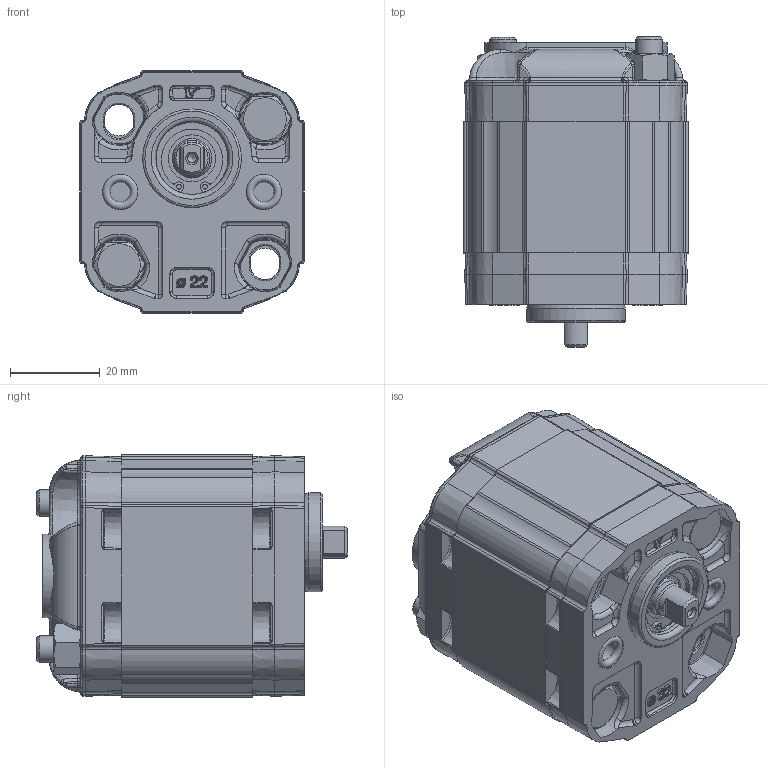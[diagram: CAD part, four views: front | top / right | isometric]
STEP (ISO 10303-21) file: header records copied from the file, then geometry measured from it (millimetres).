
FILE_DESCRIPTION(/* description */ ('Unknown'),/* implementation_level */ '2;1');
FILE_NAME(/* name */ 'X0R0124BZZE',/* time_stamp */ '2026-05-25T16:59:36+02:00',/* author */ ('Unknown'),/* organization */ ('Unknown'),/* preprocessor_version */ 'ST-DEVELOPER v16.7',/* originating_system */ 'Solid Edge',/* authorisation */ 'Unknown');
FILE_SCHEMA (('AUTOMOTIVE_DESIGN {1 0 10303 214 3 1 1}'));
Products named in the file (5): X0R0124BZZE; X0R24; 0B; X0ZZH29,3; XR017-E
Assembly tree (4 placements, depth 2):
  X0R0124BZZE
    X0R24
    0B
    X0ZZH29,3
    XR017-E
Bounding box: 50 x 69.1 x 54 mm (x, y, z)
Volume: 123855.9 mm3; surface area: 33905.3 mm2
Topology: 5 solids, 7 shells, 1581 faces, 3841 edges, 2289 vertices
Faces by surface type: cylinder 449, plane 379, bspline 329, cone 227, torus 164, sphere 33
Full cylindrical faces by diameter (mm): 1.053 x2, 2 x1, 5 x2, 6 x4, 6.01 x2, 6.5 x4, 6.511 x1, 6.518 x1, 7.16 x1, 7.5 x2, 7.9 x4, 7.92 x1, 8 x2, 9.318 x1, 10 x2, 10.445 x1, 11 x1, 11.445 x1, 13 x1, 14 x1, 16 x1, 16.2 x1, 16.8 x1, 22 x1
Entity records: 105205 total; most frequent: CARTESIAN_POINT 60331, ORIENTED_EDGE 7310, DIRECTION 6494, EDGE_CURVE 3655, AXIS2_PLACEMENT_3D 2696, VERTEX_POINT 2235, FACE_BOUND 1780, EDGE_LOOP 1779
